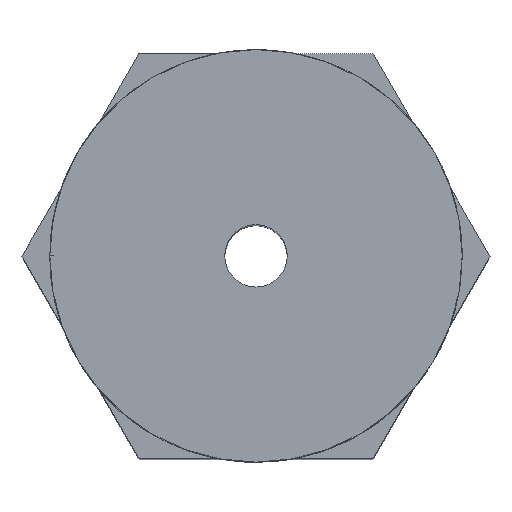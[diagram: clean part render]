
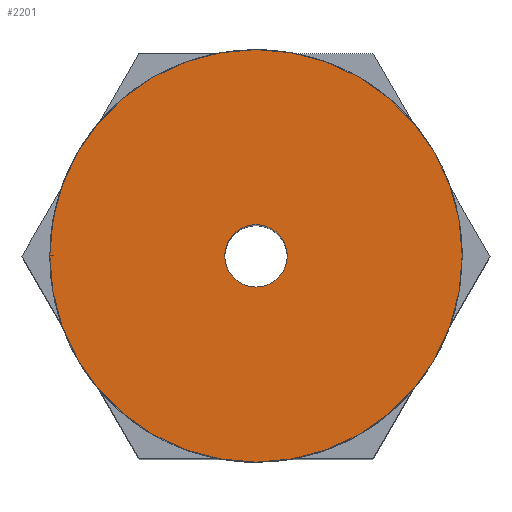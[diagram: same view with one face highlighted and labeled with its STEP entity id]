
A CAD part, top view. The second image highlights one B-rep face of the part: STEP entity #2201.
In plain terms, the highlighted planar face has unit normal (0, 0, 1).
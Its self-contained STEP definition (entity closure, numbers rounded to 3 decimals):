
#21 = AXIS2_PLACEMENT_3D ( 'NONE', #2199, #1574, #1139 ) ;
#50 = DIRECTION ( 'NONE',  ( 0., 0., 1. ) ) ;
#52 = AXIS2_PLACEMENT_3D ( 'NONE', #232, #1813, #2257 ) ;
#117 = PLANE ( 'NONE',  #21 ) ;
#155 = EDGE_LOOP ( 'NONE', ( #1680, #1048 ) ) ;
#173 = VERTEX_POINT ( 'NONE', #1091 ) ;
#232 = CARTESIAN_POINT ( 'NONE',  ( 0., 0., 11. ) ) ;
#263 = CARTESIAN_POINT ( 'NONE',  ( 0., 0., 11. ) ) ;
#271 = EDGE_CURVE ( 'NONE', #173, #2547, #1445, .T. ) ;
#391 = ORIENTED_EDGE ( 'NONE', *, *, #2647, .T. ) ;
#397 = DIRECTION ( 'NONE',  ( 0., 0., 1. ) ) ;
#459 = AXIS2_PLACEMENT_3D ( 'NONE', #263, #50, #474 ) ;
#474 = DIRECTION ( 'NONE',  ( 1., 0., 0. ) ) ;
#604 = VERTEX_POINT ( 'NONE', #996 ) ;
#615 = AXIS2_PLACEMENT_3D ( 'NONE', #1007, #397, #2653 ) ;
#716 = ORIENTED_EDGE ( 'NONE', *, *, #271, .T. ) ;
#996 = CARTESIAN_POINT ( 'NONE',  ( -2., 0., 11. ) ) ;
#1007 = CARTESIAN_POINT ( 'NONE',  ( 0., 0., 11. ) ) ;
#1048 = ORIENTED_EDGE ( 'NONE', *, *, #1099, .F. ) ;
#1091 = CARTESIAN_POINT ( 'NONE',  ( 13.22, 0., 11. ) ) ;
#1099 = EDGE_CURVE ( 'NONE', #604, #2242, #2510, .T. ) ;
#1139 = DIRECTION ( 'NONE',  ( 1., 0., 0. ) ) ;
#1179 = CARTESIAN_POINT ( 'NONE',  ( 2., 0., 11. ) ) ;
#1340 = FACE_BOUND ( 'NONE', #155, .T. ) ;
#1445 = CIRCLE ( 'NONE', #52, 13.22 ) ;
#1481 = CIRCLE ( 'NONE', #459, 13.22 ) ;
#1574 = DIRECTION ( 'NONE',  ( 0., 0., 1. ) ) ;
#1680 = ORIENTED_EDGE ( 'NONE', *, *, #1893, .F. ) ;
#1813 = DIRECTION ( 'NONE',  ( 0., 0., 1. ) ) ;
#1817 = DIRECTION ( 'NONE',  ( 1., 0., 0. ) ) ;
#1853 = CARTESIAN_POINT ( 'NONE',  ( 0., 0., 11. ) ) ;
#1893 = EDGE_CURVE ( 'NONE', #2242, #604, #2503, .T. ) ;
#1999 = AXIS2_PLACEMENT_3D ( 'NONE', #1853, #2473, #1817 ) ;
#2199 = CARTESIAN_POINT ( 'NONE',  ( 0., 0., 11. ) ) ;
#2201 = ADVANCED_FACE ( 'NONE', ( #1340, #2597 ), #117, .T. ) ;
#2228 = EDGE_LOOP ( 'NONE', ( #391, #716 ) ) ;
#2242 = VERTEX_POINT ( 'NONE', #1179 ) ;
#2257 = DIRECTION ( 'NONE',  ( 1., 0., 0. ) ) ;
#2473 = DIRECTION ( 'NONE',  ( 0., 0., 1. ) ) ;
#2499 = CARTESIAN_POINT ( 'NONE',  ( -13.22, 0., 11. ) ) ;
#2503 = CIRCLE ( 'NONE', #615, 2. ) ;
#2510 = CIRCLE ( 'NONE', #1999, 2. ) ;
#2547 = VERTEX_POINT ( 'NONE', #2499 ) ;
#2597 = FACE_OUTER_BOUND ( 'NONE', #2228, .T. ) ;
#2647 = EDGE_CURVE ( 'NONE', #2547, #173, #1481, .T. ) ;
#2653 = DIRECTION ( 'NONE',  ( 1., 0., 0. ) ) ;
